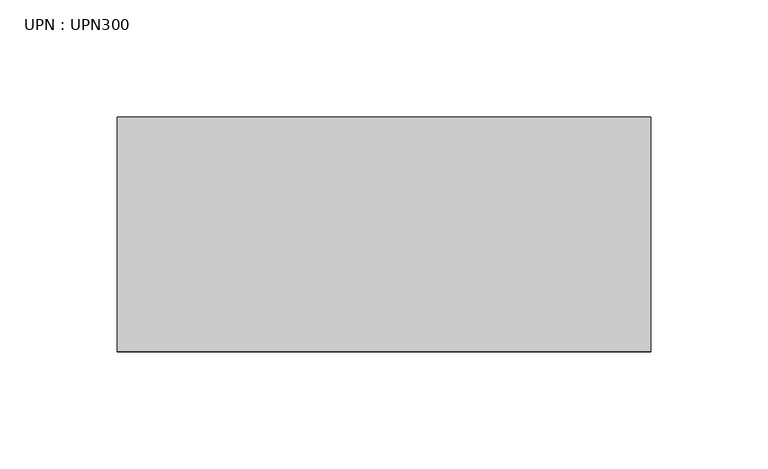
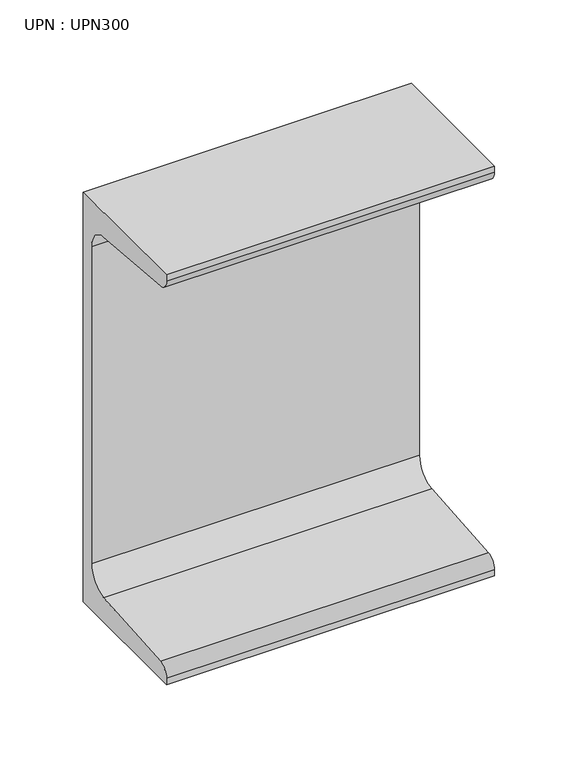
"""IFC4 building model written with IfcOpenShell, lengths in millimetres: beam geometry, UPN : UPN300."""

from ifc_helpers import new_model, si_unit, point, frame, frame_2d, origin, place, context, project, spatial, polyline, circle_curve, trimmed, segment, composite_curve, outline, extrude, source, transform, mapped, element, save


def upn_upn300_39c534ce(model_context):
    return source(origin(), model_context, "Body", "SweptSolid", [
        extrude(outline(composite_curve([segment(polyline([(27.0, 150.0), (27.0, -150.0), (-73.0, -150.0), (-73.0, -145.3826224)]), True, "CONTINUOUS"), segment(trimmed(circle_curve(frame_2d((-65.0, -145.3826224)), 8.0), [point((-73.0, -145.3826224))], [point((-65.637416, -137.4080566))], False, "CARTESIAN"), True, "CONTINUOUS"), segment(polyline([(-65.637416, -137.4080566), (2.274832, -131.9797543)]), True, "CONTINUOUS"), segment(trimmed(circle_curve(frame_2d((1.0, -116.0306225)), 16.0), [point((2.274832, -131.9797543))], [point((17.0, -116.0306225))], True, "CARTESIAN"), True, "CONTINUOUS"), segment(polyline([(17.0, -116.0306225), (17.0, 116.0306225)]), True, "CONTINUOUS"), segment(trimmed(circle_curve(frame_2d((1.0, 116.0306225)), 16.0), [point((17.0, 116.0306225))], [point((2.274832, 131.9797543))], True, "CARTESIAN"), True, "CONTINUOUS"), segment(polyline([(2.274832, 131.9797543), (-65.637416, 137.4080566)]), True, "CONTINUOUS"), segment(trimmed(circle_curve(frame_2d((-65.0, 145.3826224)), 8.0), [point((-65.637416, 137.4080566))], [point((-73.0, 145.3826224))], False, "CARTESIAN"), True, "CONTINUOUS"), segment(polyline([(-73.0, 145.3826224), (-73.0, 150.0), (27.0, 150.0)]), True, "CONTINUOUS")], self_intersect=False)), frame((-107.3, 0.0, 0.0), z_axis=(1.0, 0.0, 0.0), x_axis=(0.0, 1.0, 0.0)), (0.0, 0.0, 1.0), 227.3),
    ])


if __name__ == "__main__":
    model = new_model("IFC4")
    model_context = context("Model", 3, world=origin())
    ifc_project = project(units=[si_unit("LENGTHUNIT", "METRE", prefix="MILLI")], contexts=[model_context])
    site = spatial("IfcSite", under=ifc_project)
    building = spatial("IfcBuilding", under=site)
    placement = place(None, origin())
    upn_upn300_shape = upn_upn300_39c534ce(model_context)
    element("IfcBeam", 1, ObjectType="UPN : UPN300", at=placement, inside=building, context=model_context, shape_type="MappedRepresentation", body=[
        mapped(upn_upn300_shape, transform((0.0, 0.0, 0.0), x_axis=(1.0, 0.0, 0.0), y_axis=(0.0, 1.0, 0.0), z_axis=(0.0, 0.0, 1.0))),
    ])
    save(model, "model.ifc")
